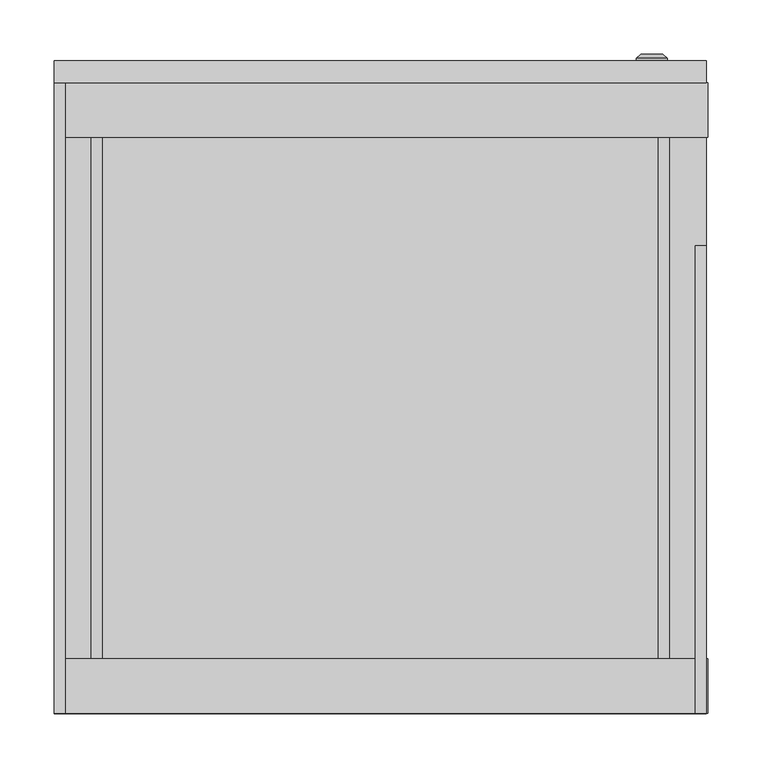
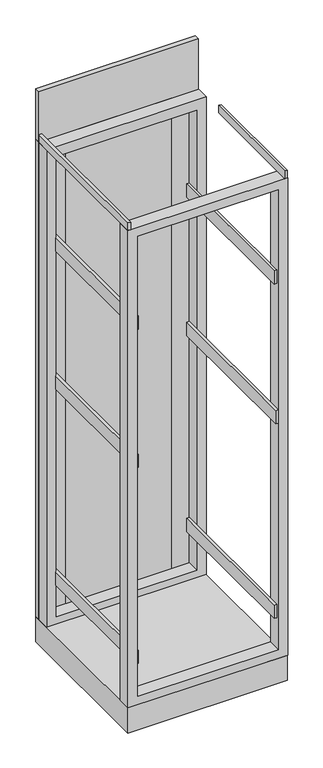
"""IFC4 building model written with IfcOpenShell, lengths in millimetres: proxy geometry, ЩО-70 : ЩО-70_2200х600х600."""

from ifc_helpers import new_model, si_unit, frame, origin, origin_with_axes, place, context, project, spatial, polyline, circle_curve, outline, extrude, source, transform, mapped, element, save
from ifc_brep_helpers import plane_surface, cylinder_surface, revolved_surface, advanced_brep


def electrical_equipment_2483adff(model_context):
    return source(origin(), model_context, "Body", "SolidModel", [
        advanced_brep(
        [(235.669873, 600.0, 515.0), (264.330127, 600.0, 515.0), (250.0, 600.0, 515.0), (235.669873, 602.366592, 515.0), (264.330127, 602.366592, 515.0), (240.0, 606.0, 515.0), (260.0, 606.0, 515.0), (248.1080471, 606.0, 515.0), (251.8919529, 606.0, 515.0), (248.1080471, 604.9822294, 515.0), (251.8919529, 604.9822294, 515.0), (250.0, 604.9822294, 515.0)],
        [
            (0, 1, circle_curve(frame((250.0, 600.0, 515.0), z_axis=(0.0, -1.0, 0.0), x_axis=(1.0, 0.0, 0.0)), 14.330127)),
            (1, 2),
            (2, 0),
            (1, 0, circle_curve(frame((250.0, 600.0, 515.0), z_axis=(0.0, -1.0, 0.0), x_axis=(1.0, 0.0, 0.0)), 14.330127)),
            (3, 4, circle_curve(frame((250.0, 602.366592, 515.0), z_axis=(0.0, -1.0, 0.0), x_axis=(1.0, 0.0, 0.0)), 14.330127)),
            (4, 1),
            (0, 3),
            (4, 3, circle_curve(frame((250.0, 602.366592, 515.0), z_axis=(0.0, -1.0, 0.0), x_axis=(1.0, 0.0, 0.0)), 14.330127)),
            (5, 6, circle_curve(frame((250.0, 606.0, 515.0), z_axis=(0.0, -1.0, 0.0), x_axis=(1.0, 0.0, 0.0)), 10.0)),
            (6, 4),
            (3, 5),
            (6, 5, circle_curve(frame((250.0, 606.0, 515.0), z_axis=(0.0, -1.0, 0.0), x_axis=(1.0, 0.0, 0.0)), 10.0)),
            (7, 8, circle_curve(frame((250.0, 606.0, 515.0), z_axis=(0.0, -1.0, 0.0), x_axis=(1.0, 0.0, 0.0)), 1.8919529)),
            (8, 6),
            (5, 7),
            (8, 7, circle_curve(frame((250.0, 606.0, 515.0), z_axis=(0.0, -1.0, 0.0), x_axis=(1.0, 0.0, 0.0)), 1.8919529)),
            (9, 10, circle_curve(frame((250.0, 604.9822294, 515.0), z_axis=(0.0, -1.0, 0.0), x_axis=(1.0, 0.0, 0.0)), 1.8919529)),
            (10, 8),
            (7, 9),
            (10, 9, circle_curve(frame((250.0, 604.9822294, 515.0), z_axis=(0.0, -1.0, 0.0), x_axis=(1.0, 0.0, 0.0)), 1.8919529)),
            (11, 10),
            (9, 11),
        ],
        [
            plane_surface(frame((250.0, 600.0, 515.0), z_axis=(0.0, -1.0, 0.0), x_axis=(1.0, 0.0, 0.0))),
            cylinder_surface(frame((250.0, 613.1348851, 515.0), z_axis=(0.0, 1.0, 0.0), x_axis=(1.0, 0.0, 0.0)), 14.330127),
            revolved_surface(polyline([(264.330127, 602.366592, 515.0), (260.0, 606.0, 515.0)]), (250.0, 613.1348851, 515.0), (0.0, 1.0, 0.0)),
            plane_surface(frame((250.0, 606.0, 515.0), z_axis=(0.0, 1.0, 0.0), x_axis=(1.0, 0.0, 0.0))),
            revolved_surface(polyline([(251.8919529, 606.0, 515.0), (251.8919529, 604.9822294, 515.0)]), (250.0, 613.1348851, 515.0), (0.0, 1.0, 0.0)),
            plane_surface(frame((250.0, 604.9822294, 515.0), z_axis=(0.0, 1.0, 0.0), x_axis=(1.0, 0.0, 0.0))),
        ],
        [
            (0, [[1, 2, 3]]),
            (0, [[4, -3, -2]]),
            (1, [[5, 6, -1, 7]]),
            (1, [[8, -7, -4, -6]]),
            (2, [[9, 10, -5, 11]]),
            (2, [[12, -11, -8, -10]]),
            (3, [[13, 14, -9, 15]]),
            (3, [[16, -15, -12, -14]]),
            (4, [[17, 18, -13, 19]]),
            (4, [[20, -19, -16, -18]]),
            (5, [[21, -17, 22]]),
            (5, [[-22, -20, -21]]),
        ],
    ),
        advanced_brep(
        [(235.669873, 600.0, 1485.0), (264.330127, 600.0, 1485.0), (250.0, 600.0, 1485.0), (235.669873, 602.366592, 1485.0), (264.330127, 602.366592, 1485.0), (240.0, 606.0, 1485.0), (260.0, 606.0, 1485.0), (248.1080471, 606.0, 1485.0), (251.8919529, 606.0, 1485.0), (248.1080471, 604.9822294, 1485.0), (251.8919529, 604.9822294, 1485.0), (250.0, 604.9822294, 1485.0)],
        [
            (0, 1, circle_curve(frame((250.0, 600.0, 1485.0), z_axis=(0.0, -1.0, 0.0), x_axis=(1.0, 0.0, 0.0)), 14.330127)),
            (1, 2),
            (2, 0),
            (1, 0, circle_curve(frame((250.0, 600.0, 1485.0), z_axis=(0.0, -1.0, 0.0), x_axis=(1.0, 0.0, 0.0)), 14.330127)),
            (3, 4, circle_curve(frame((250.0, 602.366592, 1485.0), z_axis=(0.0, -1.0, 0.0), x_axis=(1.0, 0.0, 0.0)), 14.330127)),
            (4, 1),
            (0, 3),
            (4, 3, circle_curve(frame((250.0, 602.366592, 1485.0), z_axis=(0.0, -1.0, 0.0), x_axis=(1.0, 0.0, 0.0)), 14.330127)),
            (5, 6, circle_curve(frame((250.0, 606.0, 1485.0), z_axis=(0.0, -1.0, 0.0), x_axis=(1.0, 0.0, 0.0)), 10.0)),
            (6, 4),
            (3, 5),
            (6, 5, circle_curve(frame((250.0, 606.0, 1485.0), z_axis=(0.0, -1.0, 0.0), x_axis=(1.0, 0.0, 0.0)), 10.0)),
            (7, 8, circle_curve(frame((250.0, 606.0, 1485.0), z_axis=(0.0, -1.0, 0.0), x_axis=(1.0, 0.0, 0.0)), 1.8919529)),
            (8, 6),
            (5, 7),
            (8, 7, circle_curve(frame((250.0, 606.0, 1485.0), z_axis=(0.0, -1.0, 0.0), x_axis=(1.0, 0.0, 0.0)), 1.8919529)),
            (9, 10, circle_curve(frame((250.0, 604.9822294, 1485.0), z_axis=(0.0, -1.0, 0.0), x_axis=(1.0, 0.0, 0.0)), 1.8919529)),
            (10, 8),
            (7, 9),
            (10, 9, circle_curve(frame((250.0, 604.9822294, 1485.0), z_axis=(0.0, -1.0, 0.0), x_axis=(1.0, 0.0, 0.0)), 1.8919529)),
            (11, 10),
            (9, 11),
        ],
        [
            plane_surface(frame((250.0, 600.0, 1485.0), z_axis=(0.0, -1.0, 0.0), x_axis=(1.0, 0.0, 0.0))),
            cylinder_surface(frame((250.0, 613.1348851, 1485.0), z_axis=(0.0, 1.0, 0.0), x_axis=(1.0, 0.0, 0.0)), 14.330127),
            revolved_surface(polyline([(264.330127, 602.366592, 1485.0), (260.0, 606.0, 1485.0)]), (250.0, 613.1348851, 1485.0), (0.0, 1.0, 0.0)),
            plane_surface(frame((250.0, 606.0, 1485.0), z_axis=(0.0, 1.0, 0.0), x_axis=(1.0, 0.0, 0.0))),
            revolved_surface(polyline([(251.8919529, 606.0, 1485.0), (251.8919529, 604.9822294, 1485.0)]), (250.0, 613.1348851, 1485.0), (0.0, 1.0, 0.0)),
            plane_surface(frame((250.0, 604.9822294, 1485.0), z_axis=(0.0, 1.0, 0.0), x_axis=(1.0, 0.0, 0.0))),
        ],
        [
            (0, [[1, 2, 3]]),
            (0, [[4, -3, -2]]),
            (1, [[5, 6, -1, 7]]),
            (1, [[8, -7, -4, -6]]),
            (2, [[9, 10, -5, 11]]),
            (2, [[12, -11, -8, -10]]),
            (3, [[13, 14, -9, 15]]),
            (3, [[16, -15, -12, -14]]),
            (4, [[17, 18, -13, 19]]),
            (4, [[20, -19, -16, -18]]),
            (5, [[21, -17, 22]]),
            (5, [[-22, -20, -21]]),
        ],
    ),
        extrude(outline(polyline([(199.0, 580.0), (-199.0, 580.0), (-199.0, 600.0), (199.0, 600.0), (199.0, 580.0)])), frame((0.0, 0.0, 101.0), z_axis=(0.0, 0.0, 1.0), x_axis=(1.0, 0.0, 0.0)), (0.0, 0.0, 1.0), 1898.0),
        extrude(outline(polyline([(300.0, 0.0), (290.0, 0.0), (290.0, 430.0), (300.0, 430.0), (300.0, 0.0)])), frame((0.0, 0.0, 2000.0), z_axis=(0.0, 0.0, 1.0), x_axis=(1.0, 0.0, 0.0)), (0.0, 0.0, 1.0), 30.0),
        extrude(outline(polyline([(-290.0, 0.0), (-300.0, 0.0), (-300.0, 580.0), (-290.0, 580.0), (-290.0, 0.0)])), frame((0.0, 0.0, 2000.0), z_axis=(0.0, 0.0, 1.0), x_axis=(1.0, 0.0, 0.0)), (0.0, 0.0, 1.0), 30.0),
        extrude(outline(polyline([(300.0, 580.0), (-300.0, 580.0), (-300.0, 600.0), (300.0, 600.0), (300.0, 580.0)])), frame((0.0, 0.0, 2000.0), z_axis=(0.0, 0.0, 1.0), x_axis=(1.0, 0.0, 0.0)), (0.0, 0.0, 1.0), 200.0),
        extrude(outline(polyline([(265.8707865, 10.0), (255.8707865, 10.0), (255.8707865, 600.0), (265.8707865, 600.0), (265.8707865, 10.0)])), frame((0.0, 0.0, 1585.5966059), z_axis=(0.0, 0.0, 1.0), x_axis=(1.0, 0.0, 0.0)), (0.0, 0.0, 1.0), 53.0898876),
        extrude(outline(polyline([(-255.8707865, 10.0), (-265.8707865, 10.0), (-265.8707865, 600.0), (-255.8707865, 600.0), (-255.8707865, 10.0)])), frame((0.0, 0.0, 1585.5966059), z_axis=(0.0, 0.0, 1.0), x_axis=(1.0, 0.0, 0.0)), (0.0, 0.0, 1.0), 53.0898876),
        extrude(outline(polyline([(-255.8707865, 10.0), (-265.8707865, 10.0), (-265.8707865, 580.0), (-255.8707865, 580.0), (-255.8707865, 10.0)])), frame((0.0, 0.0, 255.5966059), z_axis=(0.0, 0.0, 1.0), x_axis=(1.0, 0.0, 0.0)), (0.0, 0.0, 1.0), 53.0898876),
        extrude(outline(polyline([(265.8707865, 10.0), (255.8707865, 10.0), (255.8707865, 580.0), (265.8707865, 580.0), (265.8707865, 10.0)])), frame((0.0, 0.0, 255.5966059), z_axis=(0.0, 0.0, 1.0), x_axis=(1.0, 0.0, 0.0)), (0.0, 0.0, 1.0), 53.0898876),
        extrude(outline(polyline([(-255.8707865, 10.0), (-265.8707865, 10.0), (-265.8707865, 580.0), (-255.8707865, 580.0), (-255.8707865, 10.0)])), frame((0.0, 0.0, 1035.5966059), z_axis=(0.0, 0.0, 1.0), x_axis=(1.0, 0.0, 0.0)), (0.0, 0.0, 1.0), 53.0898876),
        extrude(outline(polyline([(265.8707865, 0.0), (255.8707865, 0.0), (255.8707865, 580.0), (265.8707865, 580.0), (265.8707865, 0.0)])), frame((0.0, 0.0, 1035.5966059), z_axis=(0.0, 0.0, 1.0), x_axis=(1.0, 0.0, 0.0)), (0.0, 0.0, 1.0), 53.0898876),
        extrude(outline(polyline([(1999.1471543, -300.0), (100.0, -300.0), (100.0, 301.2640449), (1999.1471543, 301.2640449), (1999.1471543, -300.0)]), holes=[polyline([(134.1190645, 265.8707865), (134.1190645, -263.3426966), (1963.7538959, -263.3426966), (1963.7538959, 265.8707865), (134.1190645, 265.8707865)])]), frame((0.0, 0.0, 0.0), z_axis=(0.0, 1.0, 0.0), x_axis=(0.0, 0.0, 1.0)), (0.0, 0.0, 1.0), 50.0),
        extrude(outline(polyline([(2000.0, -300.0), (100.0, -300.0), (100.0, 301.2640449), (2000.0, 301.2640449), (2000.0, -300.0)]), holes=[polyline([(128.351328, 265.8707865), (128.351328, -263.3426966), (1957.9861595, -263.3426966), (1957.9861595, 265.8707865), (128.351328, 265.8707865)])]), frame((0.0, 530.0, 0.0), z_axis=(0.0, 1.0, 0.0), x_axis=(0.0, 0.0, 1.0)), (0.0, 0.0, 1.0), 50.0),
        extrude(outline(polyline([(300.0067809, 600.0), (300.0067809, 0.0), (-300.0, 0.0), (-300.0, 600.0), (300.0067809, 600.0)])), origin_with_axes(), (0.0, 0.0, 1.0), 100.0),
        extrude(outline(polyline([(300.0, 580.0), (200.0, 580.0), (200.0, 600.0), (300.0, 600.0), (300.0, 580.0)])), frame((0.0, 0.0, 100.0), z_axis=(0.0, 0.0, 1.0), x_axis=(1.0, 0.0, 0.0)), (0.0, 0.0, 1.0), 1900.0),
        extrude(outline(polyline([(-200.0, 580.0), (-300.0, 580.0), (-300.0, 600.0), (-200.0, 600.0), (-200.0, 580.0)])), frame((0.0, 0.0, 100.0), z_axis=(0.0, 0.0, 1.0), x_axis=(1.0, 0.0, 0.0)), (0.0, 0.0, 1.0), 1900.0),
    ])


if __name__ == "__main__":
    model = new_model("IFC4")
    model_context = context("Model", 3, world=origin())
    ifc_project = project(units=[si_unit("LENGTHUNIT", "METRE", prefix="MILLI")], contexts=[model_context])
    site = spatial("IfcSite", under=ifc_project)
    building = spatial("IfcBuilding", under=site)
    placement = place(None, origin())
    electrical_equipment_shape = electrical_equipment_2483adff(model_context)
    element("IfcBuildingElementProxy", 1, Name="ЩО-70 : ЩО-70_2200х600х600", ObjectType="ЩО-70 : ЩО-70_2200х600х600", at=placement, inside=building, context=model_context, shape_type="MappedRepresentation", body=[
        mapped(electrical_equipment_shape, transform((0.0, 0.0, 0.0), x_axis=(1.0, 0.0, 0.0), y_axis=(0.0, 1.0, 0.0), z_axis=(0.0, 0.0, 1.0))),
    ])
    save(model, "model.ifc")
